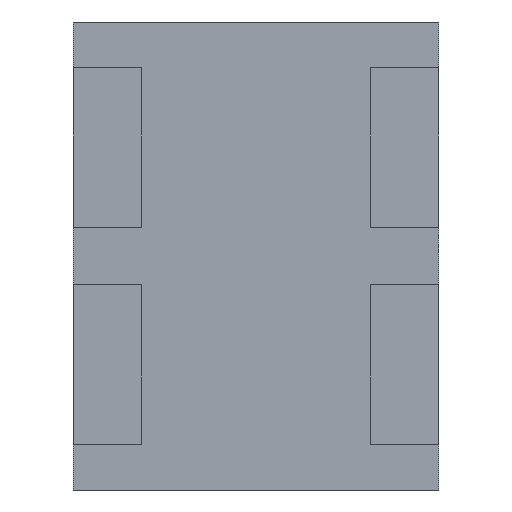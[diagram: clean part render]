
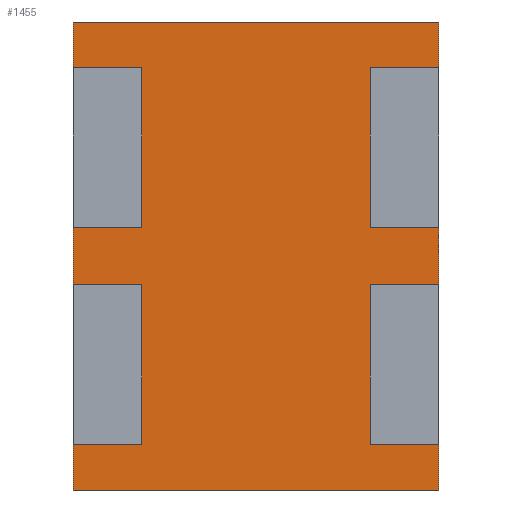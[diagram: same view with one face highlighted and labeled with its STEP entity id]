
A CAD part, front view. The second image highlights one B-rep face of the part: STEP entity #1455.
In plain terms, the highlighted planar face has unit normal (0, -1, 0).
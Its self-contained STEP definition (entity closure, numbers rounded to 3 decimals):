
#1308 = CARTESIAN_POINT ( 'NONE',  ( 0.8, 0.001, 1.025 ) ) ;
#1309 = VERTEX_POINT ( 'NONE', #1308 ) ;
#1310 = CARTESIAN_POINT ( 'NONE',  ( 0.8, 0.001, -1.025 ) ) ;
#1311 = VERTEX_POINT ( 'NONE', #1310 ) ;
#1312 = CARTESIAN_POINT ( 'NONE',  ( 0.8, 0.001, 1.025 ) ) ;
#1313 = DIRECTION ( 'NONE',  ( 0., 0., -1. ) ) ;
#1314 = VECTOR ( 'NONE', #1313, 1000. ) ;
#1315 = LINE ( 'NONE', #1312, #1314 ) ;
#1316 = EDGE_CURVE ( 'NONE', #1309, #1311, #1315, .T. ) ;
#1348 = CARTESIAN_POINT ( 'NONE',  ( -0.8, 0.001, -1.025 ) ) ;
#1349 = VERTEX_POINT ( 'NONE', #1348 ) ;
#1350 = CARTESIAN_POINT ( 'NONE',  ( -0.8, 0.001, -1.025 ) ) ;
#1351 = DIRECTION ( 'NONE',  ( -1., 0., 0. ) ) ;
#1352 = VECTOR ( 'NONE', #1351, 1000. ) ;
#1353 = LINE ( 'NONE', #1350, #1352 ) ;
#1354 = EDGE_CURVE ( 'NONE', #1311, #1349, #1353, .T. ) ;
#1379 = CARTESIAN_POINT ( 'NONE',  ( -0.8, 0.001, 1.025 ) ) ;
#1380 = VERTEX_POINT ( 'NONE', #1379 ) ;
#1381 = CARTESIAN_POINT ( 'NONE',  ( -0.8, 0.001, 1.025 ) ) ;
#1382 = DIRECTION ( 'NONE',  ( 0., 0., 1. ) ) ;
#1383 = VECTOR ( 'NONE', #1382, 1000. ) ;
#1384 = LINE ( 'NONE', #1381, #1383 ) ;
#1385 = EDGE_CURVE ( 'NONE', #1349, #1380, #1384, .T. ) ;
#1410 = CARTESIAN_POINT ( 'NONE',  ( -0.8, 0.001, 1.025 ) ) ;
#1411 = DIRECTION ( 'NONE',  ( 1., 0., 0. ) ) ;
#1412 = VECTOR ( 'NONE', #1411, 1000. ) ;
#1413 = LINE ( 'NONE', #1410, #1412 ) ;
#1414 = EDGE_CURVE ( 'NONE', #1380, #1309, #1413, .T. ) ;
#1444 = ORIENTED_EDGE ( 'NONE', *, *, #1316, .F. ) ;
#1445 = ORIENTED_EDGE ( 'NONE', *, *, #1414, .F. ) ;
#1446 = ORIENTED_EDGE ( 'NONE', *, *, #1385, .F. ) ;
#1447 = ORIENTED_EDGE ( 'NONE', *, *, #1354, .F. ) ;
#1448 = EDGE_LOOP ( 'NONE', ( #1444, #1445, #1446, #1447 ) ) ;
#1449 = FACE_OUTER_BOUND ( 'NONE', #1448, .T. ) ;
#1450 = CARTESIAN_POINT ( 'NONE',  ( 0., 0.001, 0. ) ) ;
#1451 = DIRECTION ( 'NONE',  ( 0., -1., 0. ) ) ;
#1452 = DIRECTION ( 'NONE',  ( 0., 0., -1. ) ) ;
#1453 = AXIS2_PLACEMENT_3D ( 'NONE', #1450, #1451, #1452 ) ;
#1454 = PLANE ( 'NONE', #1453 ) ;
#1455 = ADVANCED_FACE ( 'NONE', ( #1449 ), #1454, .T. ) ;
